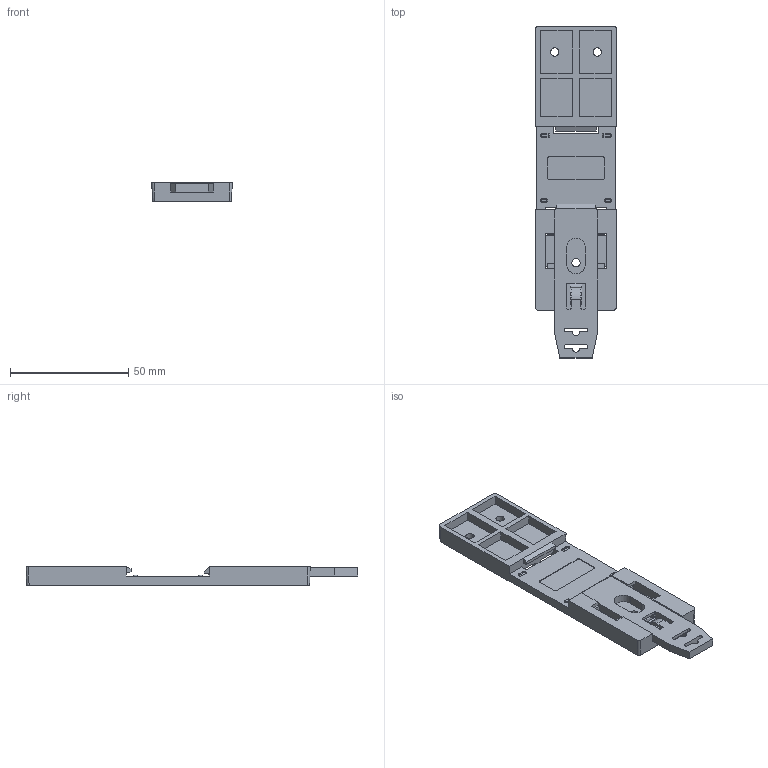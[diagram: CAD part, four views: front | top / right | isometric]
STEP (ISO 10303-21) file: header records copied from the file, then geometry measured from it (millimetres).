
FILE_DESCRIPTION((''),'2;1');
FILE_NAME('\\Spgrnd02\공용폴더\Inventor-3D작업\에스피지 제품-3D작업\☆홍보용3D파일-IGES\표준 BLDC\딘레일취부 PLATE-SDP-01\DIN RAIL 취부 PLATE.stp','2014-06-19T15:47:50',('namhun'),(''),'Autodesk Inventor 2013','Autodesk Inventor 2013','');
FILE_SCHEMA(('AUTOMOTIVE_DESIGN { 1 0 10303 214 1 1 1 1 }'));
Length unit declared in the file: millimetre
Products named in the file (1): 부품20
Bounding box: 34 x 140.2 x 8 mm (x, y, z)
Volume: 17463.6 mm3; surface area: 16345.6 mm2
Topology: 1 solids, 2 shells, 370 faces, 1004 edges, 664 vertices
Faces by surface type: plane 299, cylinder 63, bspline 8
Full cylindrical faces by diameter (mm): 3.5 x3
Entity records: 12203 total; most frequent: CARTESIAN_POINT 2326, ORIENTED_EDGE 2002, DIRECTION 1857, EDGE_CURVE 1001, VECTOR 857, LINE 857, VERTEX_POINT 664, AXIS2_PLACEMENT_3D 500
